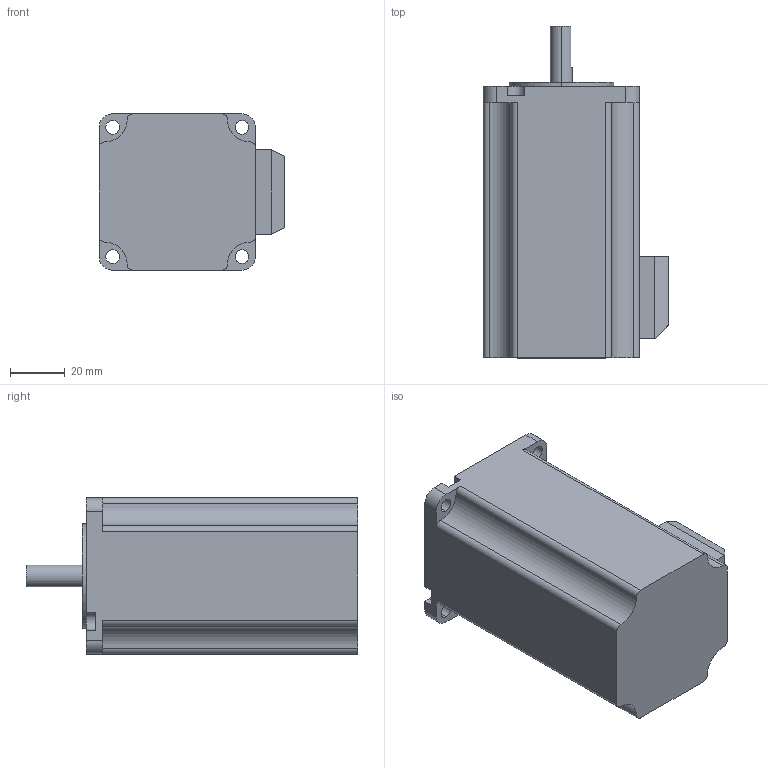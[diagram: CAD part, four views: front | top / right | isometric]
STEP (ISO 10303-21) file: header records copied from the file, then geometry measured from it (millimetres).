
FILE_DESCRIPTION (( 'STEP AP214' ), '1' );
FILE_NAME ('57HSM80D-D0822-002.STEP', '2020-05-05T10:18:58', ( 'wimxt.com' ), ( 'wimxt.com' ), 'SwSTEP 2.0', 'SolidWorks 2014', '' );
FILE_SCHEMA (( 'AUTOMOTIVE_DESIGN' ));
Length unit declared in the file: millimetre
Products named in the file (1): 57HSM80D-D0822-002
Bounding box: 67.7 x 121 x 57 mm (x, y, z)
Volume: 295424.8 mm3; surface area: 32243.4 mm2
Topology: 1 solids, 1 shells, 85 faces, 222 edges, 148 vertices
Faces by surface type: cylinder 45, plane 40
Entity records: 2698 total; most frequent: DIRECTION 486, CARTESIAN_POINT 456, ORIENTED_EDGE 444, EDGE_CURVE 222, AXIS2_PLACEMENT_3D 178, VERTEX_POINT 148, VECTOR 130, LINE 130
